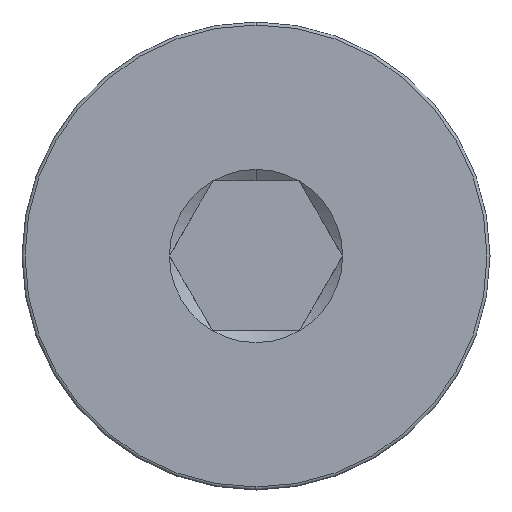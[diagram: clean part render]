
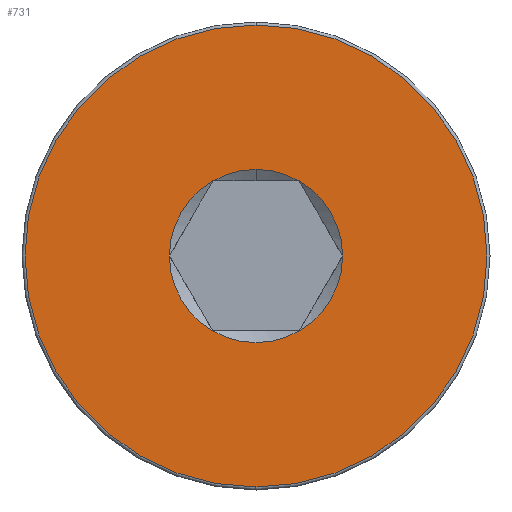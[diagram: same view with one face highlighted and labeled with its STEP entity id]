
A CAD part, left-side view. The second image highlights one B-rep face of the part: STEP entity #731.
In plain terms, the highlighted planar face has unit normal (-1, 0, 0).
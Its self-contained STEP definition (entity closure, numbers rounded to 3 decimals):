
#4 = DIRECTION ( 'NONE',  ( 1., 0., 0. ) ) ;
#15 = CARTESIAN_POINT ( 'NONE',  ( 0., 0., 0. ) ) ;
#19 = CARTESIAN_POINT ( 'NONE',  ( 0., -0.722, 1.25 ) ) ;
#22 = PLANE ( 'NONE',  #492 ) ;
#30 = AXIS2_PLACEMENT_3D ( 'NONE', #363, #4, #543 ) ;
#75 = DIRECTION ( 'NONE',  ( 1., 0., 0. ) ) ;
#79 = ORIENTED_EDGE ( 'NONE', *, *, #218, .T. ) ;
#81 = CARTESIAN_POINT ( 'NONE',  ( 0., 1.443, 0. ) ) ;
#84 = DIRECTION ( 'NONE',  ( 0., 0., -1. ) ) ;
#87 = CIRCLE ( 'NONE', #509, 3.85 ) ;
#95 = VERTEX_POINT ( 'NONE', #746 ) ;
#98 = CARTESIAN_POINT ( 'NONE',  ( 0., 0., 0. ) ) ;
#100 = ORIENTED_EDGE ( 'NONE', *, *, #503, .T. ) ;
#102 = DIRECTION ( 'NONE',  ( 1., 0., 0. ) ) ;
#109 = CIRCLE ( 'NONE', #176, 1.443 ) ;
#121 = CARTESIAN_POINT ( 'NONE',  ( 0., 0., 0. ) ) ;
#129 = DIRECTION ( 'NONE',  ( 0., 0., -1. ) ) ;
#135 = ORIENTED_EDGE ( 'NONE', *, *, #259, .T. ) ;
#141 = EDGE_CURVE ( 'NONE', #486, #341, #109, .T. ) ;
#142 = EDGE_LOOP ( 'NONE', ( #539, #160 ) ) ;
#149 = CARTESIAN_POINT ( 'NONE',  ( 0., 0., 0. ) ) ;
#153 = AXIS2_PLACEMENT_3D ( 'NONE', #453, #464, #714 ) ;
#157 = ORIENTED_EDGE ( 'NONE', *, *, #359, .T. ) ;
#160 = ORIENTED_EDGE ( 'NONE', *, *, #342, .T. ) ;
#171 = DIRECTION ( 'NONE',  ( 0., 0., -1. ) ) ;
#176 = AXIS2_PLACEMENT_3D ( 'NONE', #15, #367, #129 ) ;
#196 = CARTESIAN_POINT ( 'NONE',  ( 0., 0.722, -1.25 ) ) ;
#206 = CARTESIAN_POINT ( 'NONE',  ( 0., 0., 0. ) ) ;
#218 = EDGE_CURVE ( 'NONE', #388, #95, #465, .T. ) ;
#230 = CIRCLE ( 'NONE', #333, 1.443 ) ;
#240 = ORIENTED_EDGE ( 'NONE', *, *, #141, .T. ) ;
#259 = EDGE_CURVE ( 'NONE', #341, #404, #691, .T. ) ;
#265 = AXIS2_PLACEMENT_3D ( 'NONE', #718, #763, #171 ) ;
#273 = VERTEX_POINT ( 'NONE', #768 ) ;
#283 = VERTEX_POINT ( 'NONE', #511 ) ;
#292 = AXIS2_PLACEMENT_3D ( 'NONE', #392, #642, #656 ) ;
#295 = EDGE_CURVE ( 'NONE', #523, #323, #489, .T. ) ;
#323 = VERTEX_POINT ( 'NONE', #81 ) ;
#331 = EDGE_CURVE ( 'NONE', #283, #273, #87, .T. ) ;
#333 = AXIS2_PLACEMENT_3D ( 'NONE', #206, #75, #624 ) ;
#341 = VERTEX_POINT ( 'NONE', #451 ) ;
#342 = EDGE_CURVE ( 'NONE', #273, #283, #356, .T. ) ;
#349 = DIRECTION ( 'NONE',  ( 0., 0., -1. ) ) ;
#356 = CIRCLE ( 'NONE', #292, 3.85 ) ;
#358 = CIRCLE ( 'NONE', #30, 1.443 ) ;
#359 = EDGE_CURVE ( 'NONE', #404, #523, #741, .T. ) ;
#363 = CARTESIAN_POINT ( 'NONE',  ( 0., 0., 0. ) ) ;
#367 = DIRECTION ( 'NONE',  ( 1., 0., 0. ) ) ;
#368 = AXIS2_PLACEMENT_3D ( 'NONE', #729, #578, #84 ) ;
#375 = ORIENTED_EDGE ( 'NONE', *, *, #295, .T. ) ;
#388 = VERTEX_POINT ( 'NONE', #552 ) ;
#392 = CARTESIAN_POINT ( 'NONE',  ( 0., 0., 0. ) ) ;
#404 = VERTEX_POINT ( 'NONE', #419 ) ;
#419 = CARTESIAN_POINT ( 'NONE',  ( 0., -0.722, -1.25 ) ) ;
#448 = DIRECTION ( 'NONE',  ( 0., 0., 1. ) ) ;
#451 = CARTESIAN_POINT ( 'NONE',  ( 0., -1.443, 0. ) ) ;
#453 = CARTESIAN_POINT ( 'NONE',  ( 0., 0., 0. ) ) ;
#454 = FACE_BOUND ( 'NONE', #471, .T. ) ;
#457 = AXIS2_PLACEMENT_3D ( 'NONE', #98, #102, #349 ) ;
#464 = DIRECTION ( 'NONE',  ( 1., 0., 0. ) ) ;
#465 = CIRCLE ( 'NONE', #265, 1.443 ) ;
#471 = EDGE_LOOP ( 'NONE', ( #572, #79, #100, #240, #135, #157, #375 ) ) ;
#486 = VERTEX_POINT ( 'NONE', #19 ) ;
#489 = CIRCLE ( 'NONE', #153, 1.443 ) ;
#492 = AXIS2_PLACEMENT_3D ( 'NONE', #121, #579, #448 ) ;
#503 = EDGE_CURVE ( 'NONE', #95, #486, #230, .T. ) ;
#509 = AXIS2_PLACEMENT_3D ( 'NONE', #149, #658, #570 ) ;
#511 = CARTESIAN_POINT ( 'NONE',  ( 0., 0., 3.85 ) ) ;
#523 = VERTEX_POINT ( 'NONE', #196 ) ;
#539 = ORIENTED_EDGE ( 'NONE', *, *, #331, .T. ) ;
#543 = DIRECTION ( 'NONE',  ( 0., 0., -1. ) ) ;
#552 = CARTESIAN_POINT ( 'NONE',  ( 0., 0.722, 1.25 ) ) ;
#570 = DIRECTION ( 'NONE',  ( 0., 0., 1. ) ) ;
#572 = ORIENTED_EDGE ( 'NONE', *, *, #654, .T. ) ;
#578 = DIRECTION ( 'NONE',  ( 1., 0., 0. ) ) ;
#579 = DIRECTION ( 'NONE',  ( -1., 0., 0. ) ) ;
#624 = DIRECTION ( 'NONE',  ( 0., 0., -1. ) ) ;
#642 = DIRECTION ( 'NONE',  ( -1., 0., 0. ) ) ;
#654 = EDGE_CURVE ( 'NONE', #323, #388, #358, .T. ) ;
#656 = DIRECTION ( 'NONE',  ( 0., 0., 1. ) ) ;
#658 = DIRECTION ( 'NONE',  ( -1., 0., 0. ) ) ;
#691 = CIRCLE ( 'NONE', #368, 1.443 ) ;
#701 = FACE_OUTER_BOUND ( 'NONE', #142, .T. ) ;
#714 = DIRECTION ( 'NONE',  ( 0., 0., -1. ) ) ;
#718 = CARTESIAN_POINT ( 'NONE',  ( 0., 0., 0. ) ) ;
#729 = CARTESIAN_POINT ( 'NONE',  ( 0., 0., 0. ) ) ;
#731 = ADVANCED_FACE ( 'NONE', ( #701, #454 ), #22, .T. ) ;
#741 = CIRCLE ( 'NONE', #457, 1.443 ) ;
#746 = CARTESIAN_POINT ( 'NONE',  ( 0., 0., 1.443 ) ) ;
#763 = DIRECTION ( 'NONE',  ( 1., 0., 0. ) ) ;
#768 = CARTESIAN_POINT ( 'NONE',  ( 0., 0., -3.85 ) ) ;
